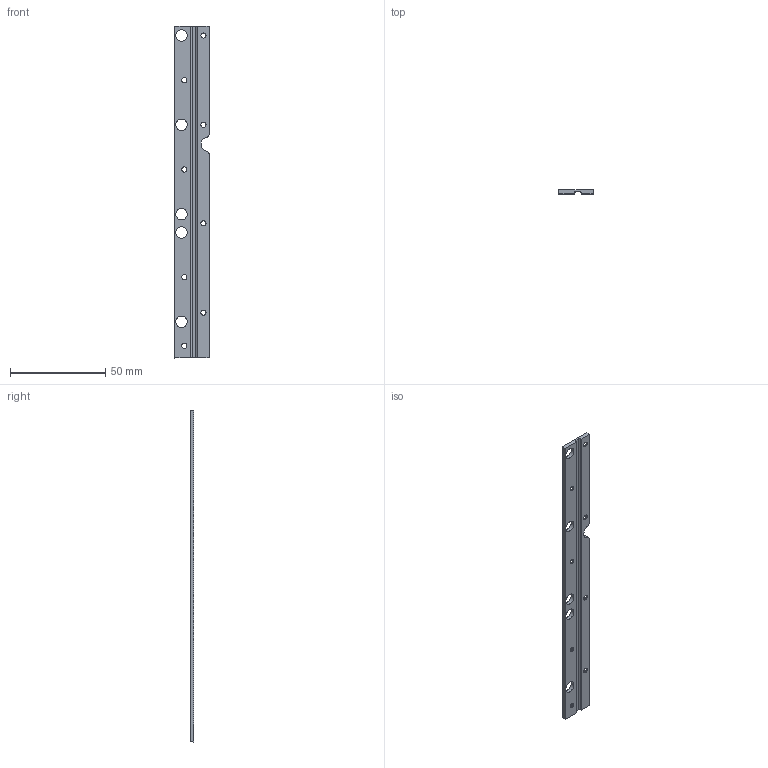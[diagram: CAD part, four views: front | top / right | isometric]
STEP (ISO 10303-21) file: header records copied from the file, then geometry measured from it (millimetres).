
FILE_DESCRIPTION(/* description */ (''),/* implementation_level */ '2;1');
FILE_NAME(/* name */ '210428_TubesOnTop_v1_lam4.stp',/* time_stamp */ '2021-09-10T14:16:15+02:00',/* author */ (''),/* organization */ (''),/* preprocessor_version */ 'ST-DEVELOPER v16.7',/* originating_system */ 'SIEMENS PLM Software NX 1919',/* authorisation */ '');
FILE_SCHEMA (('AUTOMOTIVE_DESIGN { 1 0 10303 214 3 1 1 1 }'));
Length unit declared in the file: millimetre
Products named in the file (1): 210428_TubesOnTop_v1_lam4
Bounding box: 18 x 2 x 174 mm (x, y, z)
Volume: 4997.7 mm3; surface area: 7176.6 mm2
Topology: 1 solids, 1 shells, 37 faces, 109 edges, 70 vertices
Faces by surface type: cylinder 18, plane 11, cone 8
Full cylindrical faces by diameter (mm): 2.7 x8, 6 x5
Entity records: 1142 total; most frequent: DIRECTION 200, CARTESIAN_POINT 180, ORIENTED_EDGE 160, AXIS2_PLACEMENT_3D 82, EDGE_LOOP 80, EDGE_CURVE 80, FACE_BOUND 67, VERTEX_POINT 62
